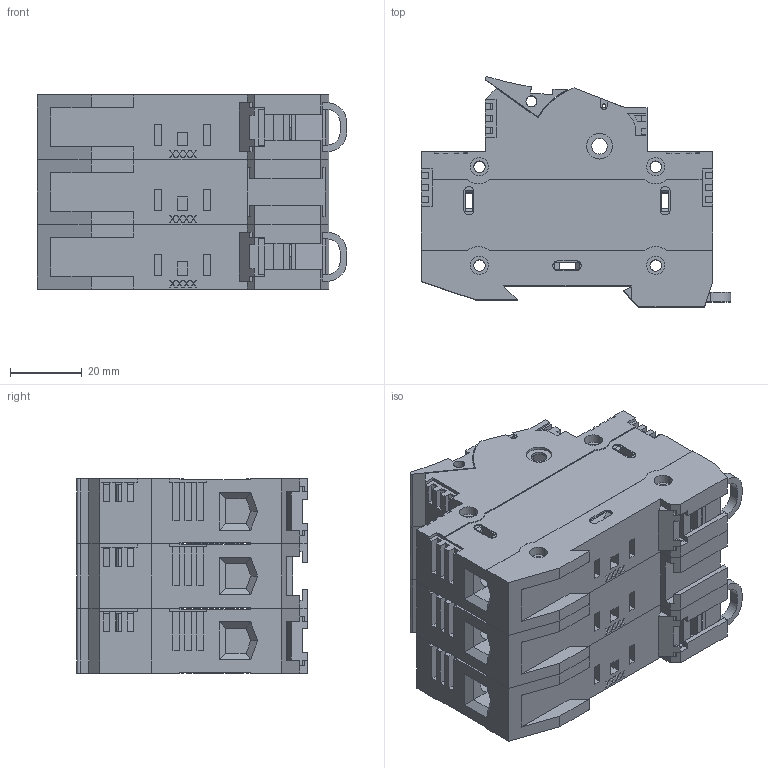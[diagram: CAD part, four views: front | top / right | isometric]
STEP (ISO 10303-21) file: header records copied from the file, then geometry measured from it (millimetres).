
FILE_DESCRIPTION((''),'2;1');
FILE_NAME('3_POLE_FUSE_HOLDER_CC','2007-01-11T',('abschult'),('Rockwell Automation'),'PRO/ENGINEER BY PARAMETRIC TECHNOLOGY CORPORATION, 2004320','PRO/ENGINEER BY PARAMETRIC TECHNOLOGY CORPORATION, 2004320','');
FILE_SCHEMA(('CONFIG_CONTROL_DESIGN'));
Length unit declared in the file: inch
Products named in the file (1): 3_POLE_FUSE_HOLDER_CC
Bounding box: 86 x 64.01 x 54 mm (x, y, z)
Surface area: 57801.2 mm2 (no closed solid volume)
Topology: 0 solids, 37 shells, 1354 faces, 4370 edges, 2948 vertices
Faces by surface type: plane 913, cylinder 273, bspline 126, torus 30, sphere 12
Entity records: 50144 total; most frequent: CARTESIAN_POINT 12974, ORIENTED_EDGE 7630, DIRECTION 7136, EDGE_CURVE 4280, VECTOR 3160, LINE 3160, VERTEX_POINT 2948, AXIS2_PLACEMENT_3D 1988
